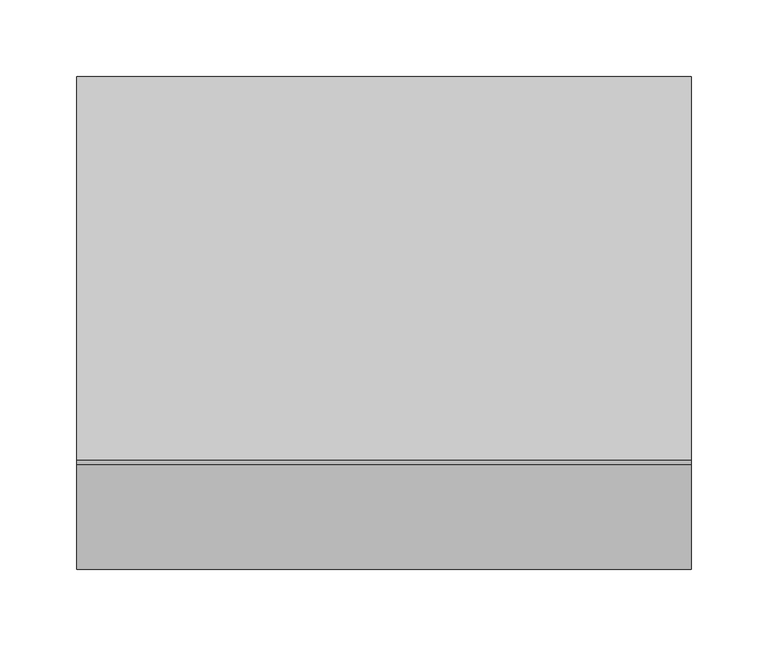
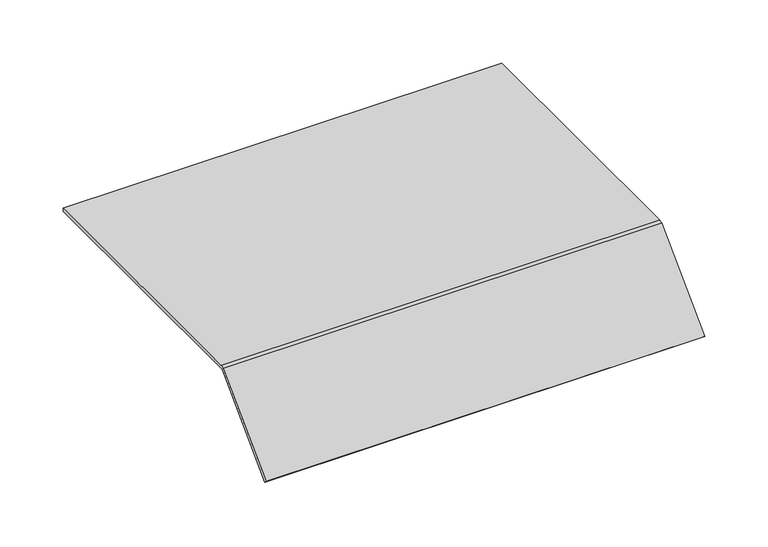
"""IFC4 building model written with IfcOpenShell, lengths in millimetres: proxy geometry, Electrical_Installation_Hager_Blank-Cover-400mm-Single-Sided-Height-70mm : Electrical_Installation_Hager_Blank-Cover-400mm-Single-Sided-Height-70mm."""

from ifc_helpers import new_model, si_unit, point, frame, frame_2d, origin, place, context, project, spatial, polyline, circle_curve, trimmed, segment, composite_curve, outline, extrude, source, transform, mapped, element, save


def electrical_fixtures_38a7e8f5(model_context):
    return source(origin(), model_context, "Body", "SweptSolid", [
        extrude(outline(composite_curve([segment(polyline([(125.0, 40.5), (125.0, 37.5), (-124.8229541, 37.5)]), True, "CONTINUOUS"), segment(trimmed(circle_curve(frame_2d((-124.8229541, 36.0725733)), 1.4274267), [point((-124.8229541, 37.5))], [point((-125.8322972, 37.0819164))], True, "CARTESIAN"), True, "CONTINUOUS"), segment(polyline([(-125.8322972, 37.0819164), (-193.6627596, -30.7485461), (-195.78408, -28.6272257), (-127.8206472, 39.336207)]), True, "CONTINUOUS"), segment(trimmed(circle_curve(frame_2d((-125.0110025, 36.5265623)), 3.9734377), [point((-127.8206472, 39.336207))], [point((-125.0110025, 40.5))], False, "CARTESIAN"), True, "CONTINUOUS"), segment(polyline([(-125.0110025, 40.5), (125.0, 40.5)]), True, "CONTINUOUS")], self_intersect=False)), frame((0.0, 0.0, 0.0), z_axis=(1.0, 0.0, 0.0), x_axis=(0.0, 1.0, 0.0)), (0.0, 0.0, 1.0), 400.0),
    ])


if __name__ == "__main__":
    model = new_model("IFC4")
    model_context = context("Model", 3, world=origin())
    ifc_project = project(units=[si_unit("LENGTHUNIT", "METRE", prefix="MILLI")], contexts=[model_context])
    site = spatial("IfcSite", under=ifc_project)
    building = spatial("IfcBuilding", under=site)
    placement = place(None, origin())
    electrical_fixtures_shape = electrical_fixtures_38a7e8f5(model_context)
    element("IfcBuildingElementProxy", 1, Name="Electrical_Installation_Hager_Blank-Cover-400mm-Single-Sided-Height-70mm : Electrical_Installation_Hager_Blank-Cover-400mm-Single-Sided-Height-70mm", ObjectType="Electrical_Installation_Hager_Blank-Cover-400mm-Single-Sided-Height-70mm : Electrical_Installation_Hager_Blank-Cover-400mm-Single-Sided-Height-70mm", at=placement, inside=building, context=model_context, shape_type="MappedRepresentation", body=[
        mapped(electrical_fixtures_shape, transform((0.0, 0.0, 0.0), x_axis=(1.0, 0.0, 0.0), y_axis=(0.0, 1.0, 0.0), z_axis=(0.0, 0.0, 1.0))),
    ])
    save(model, "model.ifc")
